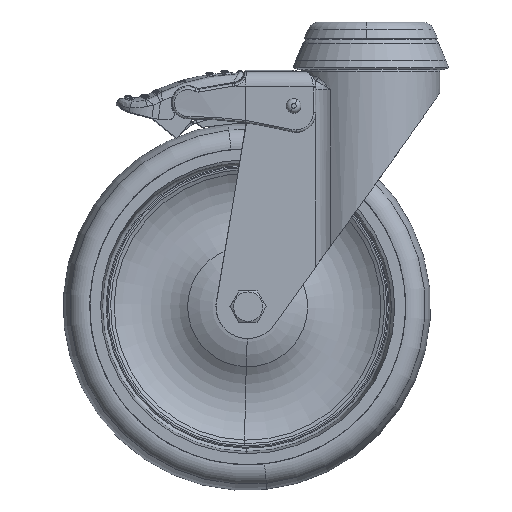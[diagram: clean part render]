
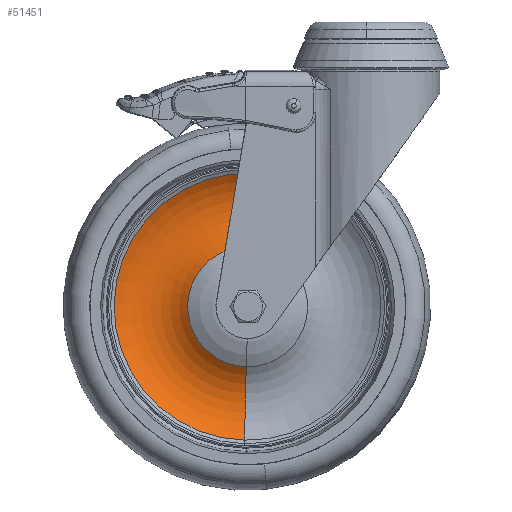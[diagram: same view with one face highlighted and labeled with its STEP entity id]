
A CAD part, top view. The second image highlights one B-rep face of the part: STEP entity #51451.
In plain terms, the highlighted toroidal (fillet/blend) face has major radius 39.626 mm and minor radius 24.071 mm.
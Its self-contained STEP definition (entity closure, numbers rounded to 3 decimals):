
#9260 = CARTESIAN_POINT ( 'NONE',  ( 53.784, -64.44, 158.141 ) ) ;
#17017 = ORIENTED_EDGE ( 'NONE', *, *, #51517, .T. ) ;
#30301 = DIRECTION ( 'NONE',  ( -0.021, 0., -1. ) ) ;
#30302 = CARTESIAN_POINT ( 'NONE',  ( 53.663, -88.91, 176.853 ) ) ;
#30347 = TOROIDAL_SURFACE ( 'NONE', #30355, 39.626, 24.071 ) ;
#30351 = CARTESIAN_POINT ( 'NONE',  ( 54.408, -34.495, 157.85 ) ) ;
#30352 = DIRECTION ( 'NONE',  ( 0.021, 1., 0. ) ) ;
#30353 = DIRECTION ( 'NONE',  ( -0.021, 0., -1. ) ) ;
#30354 = AXIS2_PLACEMENT_3D ( 'NONE', #30358, #30353, #30352 ) ;
#30355 = AXIS2_PLACEMENT_3D ( 'NONE', #30302, #30301, #30447 ) ;
#30358 = CARTESIAN_POINT ( 'NONE',  ( 53.264, -88.91, 157.874 ) ) ;
#30362 = CIRCLE ( 'NONE', #30354, 54.427 ) ;
#30378 = FACE_OUTER_BOUND ( 'NONE', #51462, .T. ) ;
#30411 = CARTESIAN_POINT ( 'NONE',  ( 52.756, -113.379, 158.163 ) ) ;
#30421 = CARTESIAN_POINT ( 'NONE',  ( 52.121, -143.325, 157.898 ) ) ;
#30447 = DIRECTION ( 'NONE',  ( 0.021, 1., 0. ) ) ;
#30640 = AXIS2_PLACEMENT_3D ( 'NONE', #30735, #30733, #30732 ) ;
#30642 = DIRECTION ( 'NONE',  ( 0.021, 1., 0. ) ) ;
#30643 = DIRECTION ( 'NONE',  ( -0.021, 0., -1. ) ) ;
#30654 = CIRCLE ( 'NONE', #30640, 24.071 ) ;
#30656 = CARTESIAN_POINT ( 'NONE',  ( 53.27, -88.91, 158.152 ) ) ;
#30659 = DIRECTION ( 'NONE',  ( 0.021, 1., 0. ) ) ;
#30660 = DIRECTION ( 'NONE',  ( 1., -0.021, -0.021 ) ) ;
#30661 = CARTESIAN_POINT ( 'NONE',  ( 52.831, -128.527, 176.87 ) ) ;
#30662 = AXIS2_PLACEMENT_3D ( 'NONE', #30661, #30660, #30659 ) ;
#30663 = CIRCLE ( 'NONE', #30669, 24.475 ) ;
#30667 = CIRCLE ( 'NONE', #30662, 24.071 ) ;
#30669 = AXIS2_PLACEMENT_3D ( 'NONE', #30656, #30643, #30642 ) ;
#30732 = DIRECTION ( 'NONE',  ( -0.021, -1., 0. ) ) ;
#30733 = DIRECTION ( 'NONE',  ( -1., 0.021, 0.021 ) ) ;
#30735 = CARTESIAN_POINT ( 'NONE',  ( 54.496, -49.293, 176.835 ) ) ;
#46550 = VERTEX_POINT ( 'NONE', #9260 ) ;
#51447 = EDGE_CURVE ( 'NONE', #51464, #51454, #30362, .T. ) ;
#51448 = ORIENTED_EDGE ( 'NONE', *, *, #51519, .F. ) ;
#51451 = ADVANCED_FACE ( 'NONE', ( #30378 ), #30347, .F. ) ;
#51452 = ORIENTED_EDGE ( 'NONE', *, *, #51515, .T. ) ;
#51454 = VERTEX_POINT ( 'NONE', #30351 ) ;
#51462 = EDGE_LOOP ( 'NONE', ( #51514, #51452, #17017, #51448 ) ) ;
#51464 = VERTEX_POINT ( 'NONE', #30421 ) ;
#51469 = VERTEX_POINT ( 'NONE', #30411 ) ;
#51514 = ORIENTED_EDGE ( 'NONE', *, *, #51447, .F. ) ;
#51515 = EDGE_CURVE ( 'NONE', #51464, #51469, #30667, .T. ) ;
#51517 = EDGE_CURVE ( 'NONE', #51469, #46550, #30663, .T. ) ;
#51519 = EDGE_CURVE ( 'NONE', #51454, #46550, #30654, .T. ) ;
